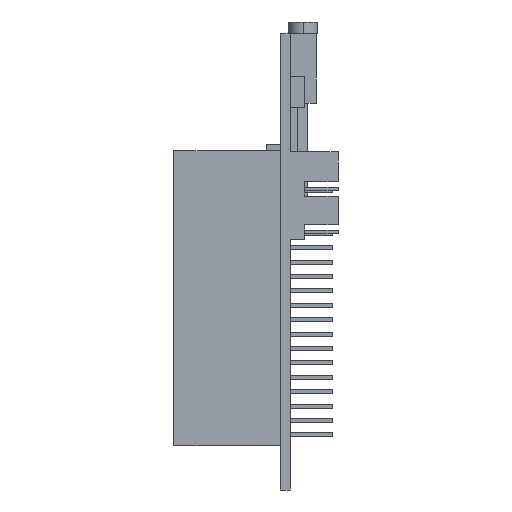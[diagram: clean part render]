
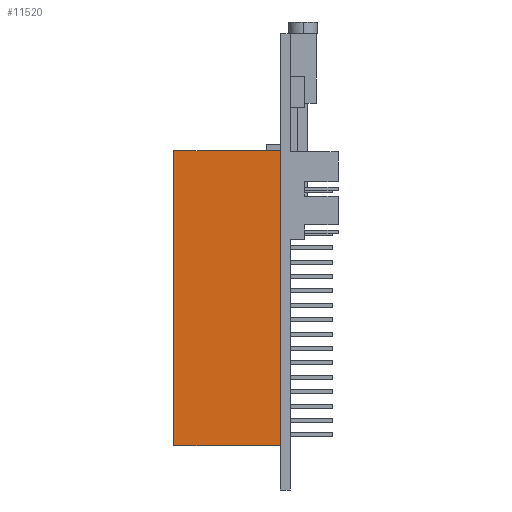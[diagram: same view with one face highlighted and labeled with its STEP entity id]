
A CAD part, left-side view. The second image highlights one B-rep face of the part: STEP entity #11520.
In plain terms, the highlighted planar face has unit normal (-1, 0, 0).
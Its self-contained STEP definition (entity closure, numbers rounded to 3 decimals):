
#2301=DIRECTION('',(0.,0.,1.));
#2302=VECTOR('',#2301,51.2);
#2303=CARTESIAN_POINT('',(-42.65,0.85,-40.7));
#2304=LINE('',#2303,#2302);
#2443=DIRECTION('',(0.,1.,0.));
#2444=VECTOR('',#2443,18.5);
#2445=CARTESIAN_POINT('',(-42.65,0.85,-40.7));
#2446=LINE('',#2445,#2444);
#2455=DIRECTION('',(0.,1.,0.));
#2456=VECTOR('',#2455,18.5);
#2457=CARTESIAN_POINT('',(-42.65,0.85,10.5));
#2458=LINE('',#2457,#2456);
#2459=DIRECTION('',(0.,0.,1.));
#2460=VECTOR('',#2459,51.2);
#2461=CARTESIAN_POINT('',(-42.65,19.35,-40.7));
#2462=LINE('',#2461,#2460);
#6135=CARTESIAN_POINT('',(-42.65,19.35,-40.7));
#6136=CARTESIAN_POINT('',(-42.65,19.35,10.5));
#6137=VERTEX_POINT('',#6135);
#6138=VERTEX_POINT('',#6136);
#6143=CARTESIAN_POINT('',(-42.65,0.85,-40.7));
#6144=CARTESIAN_POINT('',(-42.65,0.85,10.5));
#6145=VERTEX_POINT('',#6143);
#6146=VERTEX_POINT('',#6144);
#11506=CARTESIAN_POINT('',(-42.65,0.85,-40.7));
#11507=DIRECTION('',(-1.,0.,0.));
#11508=DIRECTION('',(0.,0.,1.));
#11509=AXIS2_PLACEMENT_3D('',#11506,#11507,#11508);
#11510=PLANE('',#11509);
#11511=ORIENTED_EDGE('',*,*,#11461,.F.);
#11513=ORIENTED_EDGE('',*,*,#11512,.T.);
#11515=ORIENTED_EDGE('',*,*,#11514,.T.);
#11517=ORIENTED_EDGE('',*,*,#11516,.F.);
#11518=EDGE_LOOP('',(#11511,#11513,#11515,#11517));
#11519=FACE_OUTER_BOUND('',#11518,.F.);
#11520=ADVANCED_FACE('',(#11519),#11510,.T.);
#11461=EDGE_CURVE('',#6145,#6146,#2304,.T.);
#11512=EDGE_CURVE('',#6145,#6137,#2446,.T.);
#11514=EDGE_CURVE('',#6137,#6138,#2462,.T.);
#11516=EDGE_CURVE('',#6146,#6138,#2458,.T.);
